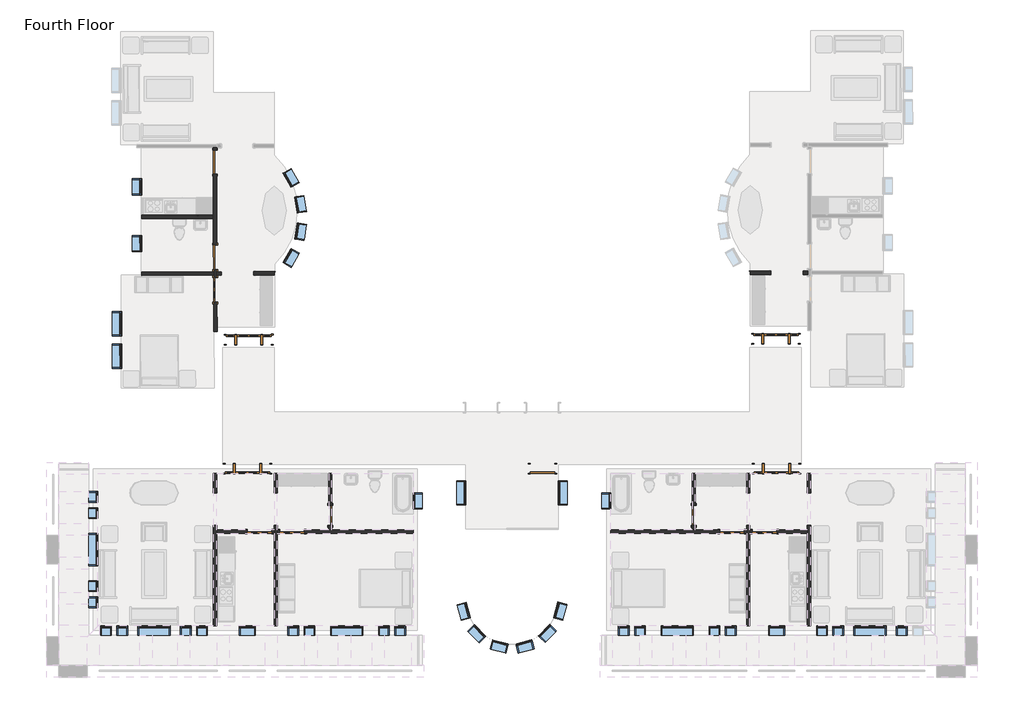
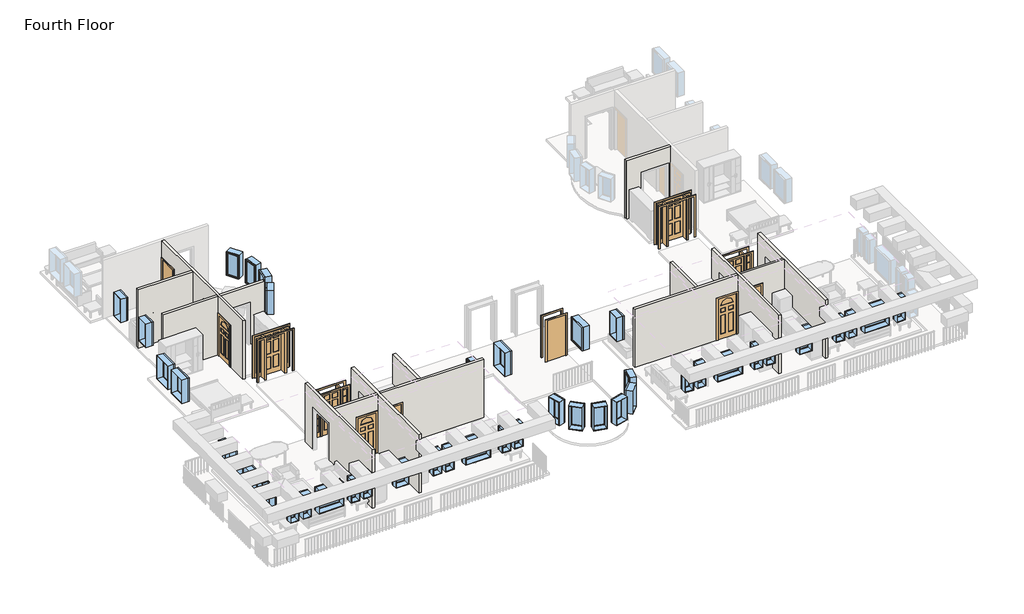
# One storey, part 1 of 6: 44 windows, 15 walls, 14 doors.
"""IFC4 building model written with IfcOpenShell, lengths in millimetres."""

from ifc_helpers import new_model, si_unit, frame, origin, place, context, project, spatial, polyline, circle_curve, outline, extrude, faceted_brep, transform, mapped, element, save
from ifc_brep_helpers import plane_surface, cylinder_surface, advanced_brep
from components import door_829da954, door_2e3b4da2, door_4d6c7550, door_e36758a9, door_cc5399a4, door_a1797ceb, door_a3eb833a, door_dba5aa2e, door_ffdb1193, window_da97879f, window_d61ef850, window_60baf983, window_ed80354a, window_0e2fc6ce, window_6eb97611, window_d89bf842

model = new_model("IFC4")

# Units and contexts
model_context = context("Model", 3, world=origin())
ifc_project = project(units=[si_unit("LENGTHUNIT", "METRE", prefix="MILLI")], contexts=[model_context])

# Site, building, storey
site = spatial("IfcSite", under=ifc_project)
building = spatial("IfcBuilding", under=site)
storey = spatial("IfcBuildingStorey", under=building, Name="Fourth Floor", Elevation=9144.0)

# Doors
placement = place(None, origin())
door_shape = door_829da954(model_context)
element("IfcDoor", 1, ObjectType="Single-Decorative 2 : 36\" x 84\"", at=placement, inside=storey, context=model_context, shape_type="MappedRepresentation", body=[
    mapped(door_shape, transform((-6669.0589563, -30331.8808133, 9144.0), x_axis=(1.0, 0.0, 0.0), y_axis=(0.0, 1.0, 0.0), z_axis=(0.0, 0.0, 1.0))),
])
element("IfcDoor", 2, ObjectType="Single-Decorative 2 : 36\" x 84\"", at=placement, inside=storey, context=model_context, shape_type="MappedRepresentation", body=[
    mapped(door_shape, transform((-24420.4839563, -30331.8808133, 9144.0), x_axis=(1.0, 0.0, 0.0), y_axis=(0.0, 1.0, 0.0), z_axis=(0.0, 0.0, 1.0))),
])
door_2_shape = door_2e3b4da2(model_context)
element("IfcDoor", 3, ObjectType="Single-Decorative 2 : 36\" x 84\"", at=placement, inside=storey, context=model_context, shape_type="MappedRepresentation", body=[
    mapped(door_2_shape, transform((-5449.8589563, -30331.8808133, 9144.0), x_axis=(-1.0, 0.0, 0.0), y_axis=(0.0, -1.0, 0.0), z_axis=(0.0, 0.0, 1.0))),
])
element("IfcDoor", 4, ObjectType="Single-Decorative 2 : 36\" x 84\"", at=placement, inside=storey, context=model_context, shape_type="MappedRepresentation", body=[
    mapped(door_2_shape, transform((-23201.2839563, -30331.8808133, 9144.0), x_axis=(-1.0, 0.0, 0.0), y_axis=(0.0, -1.0, 0.0), z_axis=(0.0, 0.0, 1.0))),
])
element("IfcDoor", 5, ObjectType="Single-Decorative 2 : 36\" x 84\"", at=placement, inside=storey, context=model_context, shape_type="MappedRepresentation", body=[
    mapped(door_2_shape, transform((-26083.9222963, -21236.9710395, 9144.0), x_axis=(-0.002276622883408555, 0.9999974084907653, 0.0), y_axis=(-0.9999974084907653, -0.002276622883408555, 0.0), z_axis=(0.0, 0.0, 1.0))),
])
door_3_shape = door_4d6c7550(model_context)
element("IfcDoor", 6, ObjectType="Single-Flush : 30\" x 84\"", at=placement, inside=storey, context=model_context, shape_type="MappedRepresentation", body=[
    mapped(door_3_shape, transform((-21764.5964563, -29722.2808133, 9144.0), x_axis=(0.0, -1.0, 0.0), y_axis=(1.0, 0.0, 0.0), z_axis=(0.0, 0.0, 1.0))),
])
door_4_shape = door_e36758a9(model_context)
element("IfcDoor", 7, ObjectType="Single-Flush : 30\" x 84\"", at=placement, inside=storey, context=model_context, shape_type="MappedRepresentation", body=[
    mapped(door_4_shape, transform((-8105.7464563, -29722.2808133, 9144.0), x_axis=(0.0, -1.0, 0.0), y_axis=(1.0, 0.0, 0.0), z_axis=(0.0, 0.0, 1.0))),
])
door_5_shape = door_cc5399a4(model_context)
element("IfcDoor", 8, ObjectType="Single-Flush : 36\" x 84\"", at=placement, inside=storey, context=model_context, shape_type="MappedRepresentation", body=[
    mapped(door_5_shape, transform((-13792.1714563, -27958.5683133, 9144.0), x_axis=(1.0, 0.0, 0.0), y_axis=(0.0, 1.0, 0.0), z_axis=(0.0, 0.0, 1.0))),
])
door_6_shape = door_a1797ceb(model_context)
element("IfcDoor", 9, ObjectType="Single-Flush : 36\" x 84\"", at=placement, inside=storey, context=model_context, shape_type="MappedRepresentation", body=[
    mapped(door_6_shape, transform((-26094.8442239, -16439.5584721, 9144.0), x_axis=(-0.002276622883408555, 0.9999974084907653, 0.0), y_axis=(-0.9999974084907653, -0.002276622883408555, 0.0), z_axis=(0.0, 0.0, 1.0))),
])
door_7_shape = door_a3eb833a(model_context)
element("IfcDoor", 10, ObjectType="Single-Flush : 36\" x 84\"", at=placement, inside=storey, context=model_context, shape_type="MappedRepresentation", body=[
    mapped(door_7_shape, transform((-26086.697955, -20017.7741991, 9144.0), x_axis=(0.002276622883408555, -0.9999974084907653, 0.0), y_axis=(0.9999974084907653, 0.002276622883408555, 0.0), z_axis=(0.0, 0.0, 1.0))),
])
door_8_shape = door_dba5aa2e(model_context)
element("IfcDoor", 11, ObjectType="Single-Raised Panel with Sidelights : 36\" x 84\"", at=placement, inside=storey, context=model_context, shape_type="MappedRepresentation", body=[
    mapped(door_8_shape, transform((-24877.6839563, -27958.5683133, 9144.0), x_axis=(1.0, 0.0, 0.0), y_axis=(0.0, 1.0, 0.0), z_axis=(0.0, 0.0, 1.0))),
])
element("IfcDoor", 12, ObjectType="Single-Raised Panel with Sidelights : 36\" x 84\"", at=placement, inside=storey, context=model_context, shape_type="MappedRepresentation", body=[
    mapped(door_8_shape, transform((-5011.6902332, -23083.5536869, 9144.0), x_axis=(-0.9999997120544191, -0.0007588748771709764, 0.0), y_axis=(0.0007588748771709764, -0.9999997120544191, 0.0), z_axis=(0.0, 0.0, 1.0))),
])
door_9_shape = door_ffdb1193(model_context)
element("IfcDoor", 13, ObjectType="Single-Raised Panel with Sidelights : 36\" x 84\"", at=placement, inside=storey, context=model_context, shape_type="MappedRepresentation", body=[
    mapped(door_9_shape, transform((-4992.6589563, -27958.5683133, 9144.0), x_axis=(-1.0, 0.0, 0.0), y_axis=(0.0, -1.0, 0.0), z_axis=(0.0, 0.0, 1.0))),
])
element("IfcDoor", 14, ObjectType="Single-Raised Panel with Sidelights : 36\" x 84\"", at=placement, inside=storey, context=model_context, shape_type="MappedRepresentation", body=[
    mapped(door_9_shape, transform((-24823.9341006, -23113.6237411, 9144.0), x_axis=(0.9999974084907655, 0.002276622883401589, 0.0), y_axis=(-0.002276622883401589, 0.9999974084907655, 0.0), z_axis=(0.0, 0.0, 1.0))),
])

# Walls
element("IfcWall", 15, ObjectType="Interior - 5\" Partition (2-hr)", at=placement, inside=storey, context=model_context, shape_type="Brep", body=[
    faceted_brep([(-3836.9589563, -33878.3558133, 9144.0), (-3836.9589563, -30395.3808133, 9144.0), (-3836.9589563, -30268.3808133, 9144.0), (-3836.9589563, -30092.1683133, 9144.0), (-3709.9589563, -30092.1683133, 9144.0), (-3709.9589563, -33878.3558133, 9144.0), (-3836.9589563, -28872.9683133, 9144.0), (-3836.9589563, -28134.7808133, 9144.0), (-3709.9589563, -28134.7808133, 9144.0), (-3709.9589563, -28872.9683133, 9144.0), (-3709.9589563, -33878.3558133, 12192.0), (-3709.9589563, -28134.7808133, 12192.0), (-3836.9589563, -28134.7808133, 12192.0), (-3836.9589563, -30268.3808133, 12192.0), (-3836.9589563, -30395.3808133, 12192.0), (-3836.9589563, -33878.3558133, 12192.0), (-3709.9589563, -30092.1683133, 11277.6), (-3709.9589563, -28872.9683133, 11277.6), (-3836.9589563, -30092.1683133, 11277.6), (-3836.9589563, -28872.9683133, 11277.6)], [[[0, 1, 2, 3, 4, 5]], [[6, 7, 8, 9]], [[10, 11, 12, 13, 14, 15]], [[5, 4, 16, 17, 9, 8, 11, 10]], [[18, 3, 2, 1, 0, 15, 14, 13, 12, 7, 6, 19]], [[5, 10, 15, 0]], [[11, 8, 7, 12]], [[9, 17, 19, 6]], [[16, 4, 3, 18]], [[17, 16, 18, 19]]]),
])
element("IfcWall", 16, ObjectType="Interior - 5\" Partition (2-hr)", at=placement, inside=storey, context=model_context, shape_type="Brep", body=[
    faceted_brep([(-5995.9589563, -28134.7808133, 9144.0), (-5995.9589563, -28872.9683133, 9144.0), (-6122.9589563, -28872.9683133, 9144.0), (-6122.9589563, -28134.7808133, 9144.0), (-5995.9589563, -30092.1683133, 9144.0), (-5995.9589563, -30268.3808133, 9144.0), (-5995.9589563, -30395.3808133, 9144.0), (-5995.9589563, -33878.3558133, 9144.0), (-6122.9589563, -33878.3558133, 9144.0), (-6122.9589563, -30395.3808133, 9144.0), (-6122.9589563, -30268.3808133, 9144.0), (-6122.9589563, -30092.1683133, 9144.0), (-5995.9589563, -33878.3558133, 12192.0), (-5995.9589563, -30395.3808133, 12192.0), (-5995.9589563, -30268.3808133, 12192.0), (-5995.9589563, -28134.7808133, 12192.0), (-6122.9589563, -28134.7808133, 12192.0), (-6122.9589563, -30268.3808133, 12192.0), (-6122.9589563, -30395.3808133, 12192.0), (-6122.9589563, -33878.3558133, 12192.0), (-5995.9589563, -28872.9683133, 11277.6), (-5995.9589563, -30092.1683133, 11277.6), (-6122.9589563, -28872.9683133, 11277.6), (-6122.9589563, -30092.1683133, 11277.6)], [[[0, 1, 2, 3]], [[4, 5, 6, 7, 8, 9, 10, 11]], [[12, 13, 14, 15, 16, 17, 18, 19]], [[20, 1, 0, 15, 14, 13, 12, 7, 6, 5, 4, 21]], [[3, 2, 22, 23, 11, 10, 9, 8, 19, 18, 17, 16]], [[7, 12, 19, 8]], [[15, 0, 3, 16]], [[11, 23, 21, 4]], [[22, 2, 1, 20]], [[23, 22, 20, 21]]]),
])
element("IfcWall", 17, ObjectType="Interior - 5\" Partition (2-hr)", at=placement, inside=storey, context=model_context, shape_type="Brep", body=[
    faceted_brep([(-6122.9589563, -30395.3808133, 9144.0), (-6211.8589563, -30395.3808133, 9144.0), (-6211.8589563, -30268.3808133, 9144.0), (-6122.9589563, -30268.3808133, 9144.0), (-7126.2589563, -30395.3808133, 9144.0), (-11217.2464563, -30395.3808133, 9144.0), (-11217.2464563, -30268.3808133, 9144.0), (-8169.2464563, -30268.3808133, 9144.0), (-8042.2464563, -30268.3808133, 9144.0), (-7126.2589563, -30268.3808133, 9144.0), (-11217.2464563, -30395.3808133, 12192.0), (-6122.9589563, -30395.3808133, 12192.0), (-6122.9589563, -30268.3808133, 12192.0), (-8042.2464563, -30268.3808133, 12192.0), (-8169.2464563, -30268.3808133, 12192.0), (-11217.2464563, -30268.3808133, 12192.0), (-6211.8589563, -30395.3808133, 11277.6), (-7126.2589563, -30395.3808133, 11277.6), (-6211.8589563, -30268.3808133, 11277.6), (-7126.2589563, -30268.3808133, 11277.6)], [[[0, 1, 2, 3]], [[4, 5, 6, 7, 8, 9]], [[10, 11, 12, 13, 14, 15]], [[16, 1, 0, 11, 10, 5, 4, 17]], [[3, 2, 18, 19, 9, 8, 7, 6, 15, 14, 13, 12]], [[11, 0, 3, 12]], [[5, 10, 15, 6]], [[18, 2, 1, 16]], [[19, 18, 16, 17]], [[9, 19, 17, 4]]]),
])
element("IfcWall", 18, ObjectType="Interior - 5\" Partition (2-hr)", at=placement, inside=storey, context=model_context, shape_type="SweptSolid", body=[
    extrude(outline(polyline([(-30103.2808133, 11277.6), (-30103.2808133, 9144.0), (-30268.3808133, 9144.0), (-30268.3808133, 12192.0), (-28134.7808133, 12192.0), (-28134.7808133, 9144.0), (-29341.2808133, 9144.0), (-29341.2808133, 11277.6), (-30103.2808133, 11277.6)])), frame((-8169.2464563, 0.0, 0.0), z_axis=(1.0, 0.0, 0.0), x_axis=(0.0, 1.0, 0.0)), (0.0, 0.0, 1.0), 127.0),
])
element("IfcWall", 19, ObjectType="Interior - 5\" Partition (2-hr)", at=placement, inside=storey, context=model_context, shape_type="SweptSolid", body=[
    extrude(outline(polyline([(9144.0, -5995.9589563), (9144.0, -5907.0589563), (11277.6, -5907.0589563), (11277.6, -4992.6589563), (9144.0, -4992.6589563), (9144.0, -3836.9589563), (12192.0, -3836.9589563), (12192.0, -5995.9589563), (9144.0, -5995.9589563)])), frame((0.0, -30395.3808133, 0.0), z_axis=(0.0, 1.0, 0.0), x_axis=(0.0, 0.0, 1.0)), (0.0, 0.0, 1.0), 127.0),
])
element("IfcWall", 20, ObjectType="Interior - 5\" Partition (2-hr)", at=placement, inside=storey, context=model_context, shape_type="Brep", body=[
    faceted_brep([(-26160.3839563, -33878.3558133, 9144.0), (-26160.3839563, -30092.1683133, 9144.0), (-26033.3839563, -30092.1683133, 9144.0), (-26033.3839563, -30268.3808133, 9144.0), (-26033.3839563, -30395.3808133, 9144.0), (-26033.3839563, -33878.3558133, 9144.0), (-26160.3839563, -28872.9683133, 9144.0), (-26160.3839563, -28134.7808133, 9144.0), (-26033.3839563, -28134.7808133, 9144.0), (-26033.3839563, -28872.9683133, 9144.0), (-26033.3839563, -33878.3558133, 12192.0), (-26033.3839563, -30395.3808133, 12192.0), (-26033.3839563, -30268.3808133, 12192.0), (-26033.3839563, -28134.7808133, 12192.0), (-26160.3839563, -28134.7808133, 12192.0), (-26160.3839563, -33878.3558133, 12192.0), (-26033.3839563, -30092.1683133, 11277.6), (-26033.3839563, -28872.9683133, 11277.6), (-26160.3839563, -30092.1683133, 11277.6), (-26160.3839563, -28872.9683133, 11277.6)], [[[0, 1, 2, 3, 4, 5]], [[6, 7, 8, 9]], [[10, 11, 12, 13, 14, 15]], [[5, 4, 3, 2, 16, 17, 9, 8, 13, 12, 11, 10]], [[18, 1, 0, 15, 14, 7, 6, 19]], [[5, 10, 15, 0]], [[13, 8, 7, 14]], [[9, 17, 19, 6]], [[16, 2, 1, 18]], [[17, 16, 18, 19]]]),
])
element("IfcWall", 21, ObjectType="Interior - 5\" Partition (2-hr)", at=placement, inside=storey, context=model_context, shape_type="Brep", body=[
    faceted_brep([(-23747.3839563, -28134.7808133, 9144.0), (-23747.3839563, -28872.9683133, 9144.0), (-23874.3839563, -28872.9683133, 9144.0), (-23874.3839563, -28134.7808133, 9144.0), (-23747.3839563, -30092.1683133, 9144.0), (-23747.3839563, -30268.3808133, 9144.0), (-23747.3839563, -30395.3808133, 9144.0), (-23747.3839563, -33878.3558133, 9144.0), (-23874.3839563, -33878.3558133, 9144.0), (-23874.3839563, -30395.3808133, 9144.0), (-23874.3839563, -30268.3808133, 9144.0), (-23874.3839563, -30092.1683133, 9144.0), (-23747.3839563, -33878.3558133, 12192.0), (-23747.3839563, -30395.3808133, 12192.0), (-23747.3839563, -30268.3808133, 12192.0), (-23747.3839563, -28134.7808133, 12192.0), (-23874.3839563, -28134.7808133, 12192.0), (-23874.3839563, -30268.3808133, 12192.0), (-23874.3839563, -30395.3808133, 12192.0), (-23874.3839563, -33878.3558133, 12192.0), (-23747.3839563, -28872.9683133, 11277.6), (-23747.3839563, -30092.1683133, 11277.6), (-23874.3839563, -28872.9683133, 11277.6), (-23874.3839563, -30092.1683133, 11277.6)], [[[0, 1, 2, 3]], [[4, 5, 6, 7, 8, 9, 10, 11]], [[12, 13, 14, 15, 16, 17, 18, 19]], [[20, 1, 0, 15, 14, 13, 12, 7, 6, 5, 4, 21]], [[3, 2, 22, 23, 11, 10, 9, 8, 19, 18, 17, 16]], [[7, 12, 19, 8]], [[15, 0, 3, 16]], [[11, 23, 21, 4]], [[22, 2, 1, 20]], [[23, 22, 20, 21]]]),
])
element("IfcWall", 22, ObjectType="Interior - 5\" Partition (2-hr)", at=placement, inside=storey, context=model_context, shape_type="Brep", body=[
    faceted_brep([(-23747.3839563, -30268.3808133, 9144.0), (-23658.4839563, -30268.3808133, 9144.0), (-23658.4839563, -30395.3808133, 9144.0), (-23747.3839563, -30395.3808133, 9144.0), (-22744.0839563, -30268.3808133, 9144.0), (-21828.0964563, -30268.3808133, 9144.0), (-21701.0964563, -30268.3808133, 9144.0), (-18653.0964563, -30268.3808133, 9144.0), (-18653.0964563, -30395.3808133, 9144.0), (-22744.0839563, -30395.3808133, 9144.0), (-18653.0964563, -30268.3808133, 12192.0), (-21701.0964563, -30268.3808133, 12192.0), (-21828.0964563, -30268.3808133, 12192.0), (-23747.3839563, -30268.3808133, 12192.0), (-23747.3839563, -30395.3808133, 12192.0), (-18653.0964563, -30395.3808133, 12192.0), (-23658.4839563, -30268.3808133, 11277.6), (-22744.0839563, -30268.3808133, 11277.6), (-23658.4839563, -30395.3808133, 11277.6), (-22744.0839563, -30395.3808133, 11277.6)], [[[0, 1, 2, 3]], [[4, 5, 6, 7, 8, 9]], [[10, 11, 12, 13, 14, 15]], [[16, 1, 0, 13, 12, 11, 10, 7, 6, 5, 4, 17]], [[3, 2, 18, 19, 9, 8, 15, 14]], [[13, 0, 3, 14]], [[7, 10, 15, 8]], [[18, 2, 1, 16]], [[19, 18, 16, 17]], [[9, 19, 17, 4]]]),
])
element("IfcWall", 23, ObjectType="Interior - 5\" Partition (2-hr)", at=placement, inside=storey, context=model_context, shape_type="SweptSolid", body=[
    extrude(outline(polyline([(-30103.2808133, 11277.6), (-30103.2808133, 9144.0), (-30268.3808133, 9144.0), (-30268.3808133, 12192.0), (-28134.7808133, 12192.0), (-28134.7808133, 9144.0), (-29341.2808133, 9144.0), (-29341.2808133, 11277.6), (-30103.2808133, 11277.6)])), frame((-21828.0964563, 0.0, 0.0), z_axis=(1.0, 0.0, 0.0), x_axis=(0.0, 1.0, 0.0)), (0.0, 0.0, 1.0), 127.0),
])
element("IfcWall", 24, ObjectType="Interior - 5\" Partition (2-hr)", at=placement, inside=storey, context=model_context, shape_type="SweptSolid", body=[
    extrude(outline(polyline([(11277.6, -23963.2839563), (9144.0, -23963.2839563), (9144.0, -23874.3839563), (12192.0, -23874.3839563), (12192.0, -26033.3839563), (9144.0, -26033.3839563), (9144.0, -24877.6839563), (11277.6, -24877.6839563), (11277.6, -23963.2839563)])), frame((0.0, -30395.3808133, 0.0), z_axis=(0.0, 1.0, 0.0), x_axis=(0.0, 0.0, 1.0)), (0.0, 0.0, 1.0), 127.0),
])
element("IfcWall", 25, ObjectType="Interior - 5\" Partition (2-hr)", at=placement, inside=storey, context=model_context, shape_type="AdvancedBrep", body=[
    advanced_brep(
    [(-6021.7945834, -20531.7031387, 9144.0), (-5205.7147944, -20531.0838361, 9144.0), (-5205.6184172, -20658.0837995, 9144.0), (-5980.3181942, -20658.6716999, 9144.0), (-5980.3834569, -20572.6724285, 9144.0), (-3986.5151454, -20530.1586159, 9144.0), (-3821.415193, -20530.0333256, 9144.0), (-3821.3188158, -20657.033289, 9144.0), (-3986.4187683, -20657.1585793, 9144.0), (-3821.415193, -20530.0333256, 12192.0), (-6021.7945834, -20531.7031387, 12192.0), (-5980.3834569, -20572.6724285, 12192.0), (-5980.3181942, -20658.6716999, 12192.0), (-3821.3188158, -20657.033289, 12192.0), (-5205.7147944, -20531.0838361, 11277.6), (-3986.5151454, -20530.1586159, 11277.6), (-5205.6184172, -20658.0837995, 11277.6), (-3986.4187683, -20657.1585793, 11277.6)],
    [
        (0, 1),
        (1, 2),
        (2, 3),
        (3, 4),
        (4, 0, circle_curve(frame((-3981.4527218, -18510.7705488, 9144.0), z_axis=(0.0, 0.0, -1.0), x_axis=(-0.6994578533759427, -0.714673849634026, 0.0)), 2871.7875)),
        (5, 6),
        (6, 7),
        (7, 8),
        (8, 5),
        (9, 10),
        (10, 11, circle_curve(frame((-3981.4527218, -18510.7705488, 12192.0), z_axis=(0.0, 0.0, 1.0), x_axis=(-0.6994578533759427, -0.714673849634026, 0.0)), 2871.7875)),
        (11, 12),
        (12, 13),
        (13, 9),
        (14, 1),
        (0, 10),
        (9, 6),
        (5, 15),
        (15, 14),
        (2, 16),
        (16, 17),
        (17, 8),
        (7, 13),
        (12, 3),
        (4, 11),
        (17, 15),
        (14, 16),
    ],
    [
        plane_surface(frame((-3757.9152112, -20529.9851371, 9144.0), z_axis=(0.0, 0.0, -1.0000000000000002), x_axis=(0.0007588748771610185, -0.9999997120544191, 0.0))),
        plane_surface(frame((-6205.2060584, -20531.8423251, 12192.0), z_axis=(0.0, 0.0, 1.0000000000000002), x_axis=(0.000758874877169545, -0.9999997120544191, 0.0))),
        plane_surface(frame((-3757.9152112, -20529.9851371, 9144.0), z_axis=(-0.0007588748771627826, 0.9999997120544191, 0.0), x_axis=(-0.9999997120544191, -0.0007588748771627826, 0.0))),
        plane_surface(frame((-3757.8188341, -20656.9851005, 9144.0), z_axis=(0.0007588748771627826, -0.9999997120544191, 0.0), x_axis=(0.9999997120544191, 0.0007588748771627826, 0.0))),
        plane_surface(frame((-3819.8514744, -22590.6077323, 9144.0), z_axis=(0.999999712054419, 0.0007588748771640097, 0.0), x_axis=(0.0007588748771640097, -0.999999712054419, 0.0))),
        cylinder_surface(frame((-3981.4527218, -18510.7705488, 8991.6), z_axis=(0.0, 0.0, 1.0), x_axis=(-0.6994578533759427, -0.714673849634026, 0.0)), 2871.7875),
        plane_surface(frame((-5979.4304559, -21828.4798931, 8991.6), z_axis=(-0.999999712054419, -0.0007588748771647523, 0.0), x_axis=(0.0007588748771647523, -0.999999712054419, 0.0))),
        plane_surface(frame((-3986.4187683, -20657.1585793, 11277.6), z_axis=(-0.9999997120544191, -0.0007588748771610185, 0.0), x_axis=(-0.0007588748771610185, 0.9999997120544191, 0.0))),
        plane_surface(frame((-5205.6184172, -20658.0837995, 9144.0), z_axis=(0.9999997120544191, 0.0007588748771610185, 0.0), x_axis=(-0.0007588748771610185, 0.9999997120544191, 0.0))),
        plane_surface(frame((-5205.6184172, -20658.0837995, 11277.6), z_axis=(0.0, 0.0, -1.0000000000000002), x_axis=(-0.0007588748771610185, 0.9999997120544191, 0.0))),
    ],
    [
        (0, [[1, 2, 3, 4, 5]]),
        (0, [[6, 7, 8, 9]]),
        (1, [[10, 11, 12, 13, 14]]),
        (2, [[15, -1, 16, -10, 17, -6, 18, 19]]),
        (3, [[-3, 20, 21, 22, -8, 23, -13, 24]]),
        (4, [[-17, -14, -23, -7]]),
        (5, [[-16, -5, 25, -11]]),
        (6, [[-4, -24, -12, -25]]),
        (7, [[-22, 26, -18, -9]]),
        (8, [[-20, -2, -15, 27]]),
        (9, [[-21, -27, -19, -26]]),
    ],
),
])
element("IfcWall", 26, ObjectType="Interior - 5\" Partition (2-hr)", at=placement, inside=storey, context=model_context, shape_type="Brep", body=[
    faceted_brep([(-26016.8625342, -22800.5099217, 9144.0), (-26016.8625342, -22800.5099217, 12192.0), (-26143.862205, -22800.7990528, 12192.0), (-26143.862205, -22800.7990528, 9144.0), (-26032.5876522, -15893.3153218, 9144.0), (-26032.3852604, -15982.2150914, 9144.0), (-26159.3849313, -15982.5042225, 9144.0), (-26159.5873231, -15893.6044529, 9144.0), (-26022.1572475, -20474.8284487, 9144.0), (-26021.9548558, -20563.7282183, 9144.0), (-26021.6657247, -20690.7278892, 9144.0), (-26021.4633329, -20779.6276588, 9144.0), (-26148.4630038, -20779.9167899, 9144.0), (-26148.6653955, -20691.0170203, 9144.0), (-26148.9545266, -20564.0173494, 9144.0), (-26149.1569184, -20475.1175798, 9144.0), (-26151.2386624, -19560.7199495, 9144.0), (-26153.5227981, -18557.4225496, 9144.0), (-26153.8119292, -18430.4228787, 9144.0), (-26157.3031873, -16896.9018528, 9144.0), (-26030.3035165, -16896.6127217, 9144.0), (-26024.2389915, -19560.4308184, 9144.0), (-26019.3815889, -21694.0252892, 9144.0), (-26146.3812598, -21694.3144203, 9144.0), (-26021.6657247, -20690.7278892, 12192.0), (-26021.9548558, -20563.7282183, 12192.0), (-26032.5876522, -15893.3153218, 12192.0), (-26159.5873231, -15893.6044529, 12192.0), (-26153.8119292, -18430.4228787, 12192.0), (-26153.5227981, -18557.4225496, 12192.0), (-26148.9545266, -20564.0173494, 12192.0), (-26148.6653955, -20691.0170203, 12192.0), (-26021.4633329, -20779.6276588, 11277.6), (-26022.1572475, -20474.8284487, 11277.6), (-26024.2389915, -19560.4308184, 11277.6), (-26030.3035165, -16896.6127217, 11277.6), (-26032.3852604, -15982.2150914, 11277.6), (-26019.3815889, -21694.0252892, 11277.6), (-26148.4630038, -20779.9167899, 11277.6), (-26146.3812598, -21694.3144203, 11277.6), (-26159.3849313, -15982.5042225, 11277.6), (-26157.3031873, -16896.9018528, 11277.6), (-26151.2386624, -19560.7199495, 11277.6), (-26149.1569184, -20475.1175798, 11277.6)], [[[0, 1, 2, 3]], [[4, 5, 6, 7]], [[8, 9, 10, 11, 12, 13, 14, 15]], [[16, 17, 18, 19, 20, 21]], [[22, 0, 3, 23]], [[1, 24, 25, 26, 27, 28, 29, 30, 31, 2]], [[32, 11, 10, 9, 8, 33, 34, 21, 20, 35, 36, 5, 4, 26, 25, 24, 1, 0, 22, 37]], [[15, 14, 13, 12, 38, 39, 23, 3, 2, 31, 30, 29, 28, 27, 7, 6, 40, 41, 19, 18, 17, 16, 42, 43]], [[26, 4, 7, 27]], [[40, 6, 5, 36]], [[41, 40, 36, 35]], [[19, 41, 35, 20]], [[33, 8, 15, 43]], [[34, 33, 43, 42]], [[21, 34, 42, 16]], [[38, 12, 11, 32]], [[39, 38, 32, 37]], [[23, 39, 37, 22]]]),
])
element("IfcWall", 27, ObjectType="Interior - 5\" Partition (2-hr)", at=placement, inside=storey, context=model_context, shape_type="SweptSolid", body=[
    extrude(outline(polyline([(-26148.6653955, -20691.0170203), (-28844.2334099, -20697.153828), (-28844.522541, -20570.1541572), (-26148.9545266, -20564.0173494), (-26148.6653955, -20691.0170203)])), frame((0.0, 0.0, 9144.0), z_axis=(0.0, 0.0, 1.0), x_axis=(1.0, 0.0, 0.0)), (0.0, 0.0, 1.0), 3048.0),
])
element("IfcWall", 28, ObjectType="Interior - 5\" Partition (2-hr)", at=placement, inside=storey, context=model_context, shape_type="SweptSolid", body=[
    extrude(outline(polyline([(-28849.3799436, -18436.5596864), (-26153.8119292, -18430.4228787), (-26153.5227981, -18557.4225496), (-28849.0908125, -18563.5593573), (-28849.3799436, -18436.5596864)])), frame((0.0, 0.0, 9144.0), z_axis=(0.0, 0.0, 1.0), x_axis=(1.0, 0.0, 0.0)), (0.0, 0.0, 1.0), 3048.0),
])
element("IfcWall", 29, ObjectType="Interior - 5\" Partition (2-hr)", at=placement, inside=storey, context=model_context, shape_type="AdvancedBrep", body=[
    advanced_brep(
    [(-23862.6713197, -20685.8126604, 9144.0), (-24637.3693121, -20687.5763602, 9144.0), (-24637.6584432, -20560.5766893, 9144.0), (-23821.5805341, -20558.7187828, 9144.0), (-23862.8671077, -20599.8135871, 9144.0), (-25856.5661525, -20690.3520188, 9144.0), (-26021.6657247, -20690.7278892, 9144.0), (-26021.9548558, -20563.7282183, 9144.0), (-25856.8552836, -20563.3523479, 9144.0), (-26021.6657247, -20690.7278892, 12192.0), (-23862.6713197, -20685.8126604, 12192.0), (-23862.8671077, -20599.8135871, 12192.0), (-23821.5805341, -20558.7187828, 12192.0), (-26021.9548558, -20563.7282183, 12192.0), (-24637.3693121, -20687.5763602, 11277.6), (-25856.5661525, -20690.3520188, 11277.6), (-24637.6584432, -20560.5766893, 11277.6), (-25856.8552836, -20563.3523479, 11277.6)],
    [
        (0, 1),
        (1, 2),
        (2, 3),
        (3, 4, circle_curve(frame((-25868.0475266, -18543.9889514, 9144.0), z_axis=(0.0, 0.0, -1.0), x_axis=(0.7158693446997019, 0.6982342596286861, 0.0)), 2871.7875)),
        (4, 0),
        (5, 6),
        (6, 7),
        (7, 8),
        (8, 5),
        (9, 10),
        (10, 11),
        (11, 12, circle_curve(frame((-25868.0475266, -18543.9889514, 12192.0), z_axis=(0.0, 0.0, 1.0), x_axis=(0.7158693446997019, 0.6982342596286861, 0.0)), 2871.7875)),
        (12, 13),
        (13, 9),
        (14, 1),
        (0, 10),
        (9, 6),
        (5, 15),
        (15, 14),
        (2, 16),
        (16, 17),
        (17, 8),
        (7, 13),
        (12, 3),
        (4, 11),
        (17, 15),
        (14, 16),
    ],
    [
        plane_surface(frame((-26085.1655601, -20690.8724548, 9144.0), z_axis=(0.0, 0.0, -1.0000000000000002), x_axis=(-0.002276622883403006, 0.9999974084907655, 0.0))),
        plane_surface(frame((-23637.8803504, -20685.3008948, 12192.0), z_axis=(0.0, 0.0, 1.0000000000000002), x_axis=(-0.002276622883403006, 0.9999974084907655, 0.0))),
        plane_surface(frame((-26085.1655601, -20690.8724548, 9144.0), z_axis=(0.0022766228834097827, -0.9999974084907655, 0.0), x_axis=(0.9999974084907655, 0.0022766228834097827, 0.0))),
        plane_surface(frame((-26085.4546912, -20563.8727839, 9144.0), z_axis=(-0.0022766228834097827, 0.9999974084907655, 0.0), x_axis=(-0.9999974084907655, -0.0022766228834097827, 0.0))),
        plane_surface(frame((-26017.2637036, -22624.2978783, 9144.0), z_axis=(-0.9999974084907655, -0.002276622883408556, 0.0), x_axis=(-0.002276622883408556, 0.9999974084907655, 0.0))),
        plane_surface(frame((-23860.0081069, -21855.6181588, 8991.6), z_axis=(0.9999974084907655, 0.002276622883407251, 0.0), x_axis=(-0.002276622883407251, 0.9999974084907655, 0.0))),
        cylinder_surface(frame((-25868.0475266, -18543.9889514, 8991.6), z_axis=(0.0, 0.0, 1.0), x_axis=(0.7158693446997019, 0.6982342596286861, 0.0)), 2871.7875),
        plane_surface(frame((-25856.8552836, -20563.3523479, 11277.6), z_axis=(0.9999974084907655, 0.002276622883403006, 0.0), x_axis=(0.002276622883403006, -0.9999974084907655, 0.0))),
        plane_surface(frame((-24637.6584432, -20560.5766893, 9144.0), z_axis=(-0.9999974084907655, -0.002276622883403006, 0.0), x_axis=(0.002276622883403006, -0.9999974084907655, 0.0))),
        plane_surface(frame((-24637.6584432, -20560.5766893, 11277.6), z_axis=(0.0, 0.0, -1.0000000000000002), x_axis=(0.002276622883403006, -0.9999974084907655, 0.0))),
    ],
    [
        (0, [[1, 2, 3, 4, 5]]),
        (0, [[6, 7, 8, 9]]),
        (1, [[10, 11, 12, 13, 14]]),
        (2, [[15, -1, 16, -10, 17, -6, 18, 19]]),
        (3, [[-3, 20, 21, 22, -8, 23, -13, 24]]),
        (4, [[-17, -14, -23, -7]]),
        (5, [[-16, -5, 25, -11]]),
        (6, [[-4, -24, -12, -25]]),
        (7, [[-22, 26, -18, -9]]),
        (8, [[-20, -2, -15, 27]]),
        (9, [[-21, -27, -19, -26]]),
    ],
),
])

# Windows
window_shape = window_da97879f(model_context)
element("IfcWindow", 30, ObjectType="Fixed : 16\" x 48\"", at=placement, inside=storey, context=model_context, shape_type="MappedRepresentation", body=[
    mapped(window_shape, transform((-6681.7589563, -34054.5683133, 9144.0), x_axis=(1.0, 0.0, 0.0), y_axis=(0.0, 1.0, 0.0), z_axis=(0.0, 0.0, 1.0))),
])
element("IfcWindow", 31, ObjectType="Fixed : 16\" x 48\"", at=placement, inside=storey, context=model_context, shape_type="MappedRepresentation", body=[
    mapped(window_shape, transform((-7291.3589563, -34054.5683133, 9144.0), x_axis=(1.0, 0.0, 0.0), y_axis=(0.0, 1.0, 0.0), z_axis=(0.0, 0.0, 1.0))),
])
element("IfcWindow", 32, ObjectType="Fixed : 16\" x 48\"", at=placement, inside=storey, context=model_context, shape_type="MappedRepresentation", body=[
    mapped(window_shape, transform((-255.5589563, -34054.5683133, 9144.0), x_axis=(1.0, 0.0, 0.0), y_axis=(0.0, 1.0, 0.0), z_axis=(0.0, 0.0, 1.0))),
])
element("IfcWindow", 33, ObjectType="Fixed : 16\" x 48\"", at=placement, inside=storey, context=model_context, shape_type="MappedRepresentation", body=[
    mapped(window_shape, transform((-19099.1839563, -34054.5683133, 9144.0), x_axis=(1.0, 0.0, 0.0), y_axis=(0.0, 1.0, 0.0), z_axis=(0.0, 0.0, 1.0))),
])
element("IfcWindow", 34, ObjectType="Fixed : 16\" x 48\"", at=placement, inside=storey, context=model_context, shape_type="MappedRepresentation", body=[
    mapped(window_shape, transform((-19708.7839563, -34054.5683133, 9144.0), x_axis=(1.0, 0.0, 0.0), y_axis=(0.0, 1.0, 0.0), z_axis=(0.0, 0.0, 1.0))),
])
element("IfcWindow", 35, ObjectType="Fixed : 16\" x 48\"", at=placement, inside=storey, context=model_context, shape_type="MappedRepresentation", body=[
    mapped(window_shape, transform((-26541.3839563, -34054.5683133, 9144.0), x_axis=(1.0, 0.0, 0.0), y_axis=(0.0, 1.0, 0.0), z_axis=(0.0, 0.0, 1.0))),
])
element("IfcWindow", 36, ObjectType="Fixed : 16\" x 48\"", at=placement, inside=storey, context=model_context, shape_type="MappedRepresentation", body=[
    mapped(window_shape, transform((-27150.9839563, -34054.5683133, 9144.0), x_axis=(1.0, 0.0, 0.0), y_axis=(0.0, 1.0, 0.0), z_axis=(0.0, 0.0, 1.0))),
])
element("IfcWindow", 37, ObjectType="Fixed : 16\" x 48\"", at=placement, inside=storey, context=model_context, shape_type="MappedRepresentation", body=[
    mapped(window_shape, transform((-30668.8839563, -33025.8683133, 9144.0), x_axis=(0.0, -1.0, 0.0), y_axis=(1.0, 0.0, 0.0), z_axis=(0.0, 0.0, 1.0))),
])
element("IfcWindow", 38, ObjectType="Fixed : 16\" x 48\"", at=placement, inside=storey, context=model_context, shape_type="MappedRepresentation", body=[
    mapped(window_shape, transform((-30668.8839563, -32416.2683133, 9144.0), x_axis=(0.0, -1.0, 0.0), y_axis=(1.0, 0.0, 0.0), z_axis=(0.0, 0.0, 1.0))),
])
window_2_shape = window_d61ef850(model_context)
element("IfcWindow", 39, ObjectType="Fixed : 16\" x 48\"", at=placement, inside=storey, context=model_context, shape_type="MappedRepresentation", body=[
    mapped(window_2_shape, transform((-10771.1589563, -34054.5683133, 9144.0), x_axis=(-1.0, 0.0, 0.0), y_axis=(0.0, -1.0, 0.0), z_axis=(0.0, 0.0, 1.0))),
])
element("IfcWindow", 40, ObjectType="Fixed : 16\" x 48\"", at=placement, inside=storey, context=model_context, shape_type="MappedRepresentation", body=[
    mapped(window_2_shape, transform((-10161.5589563, -34054.5683133, 9144.0), x_axis=(-1.0, 0.0, 0.0), y_axis=(0.0, -1.0, 0.0), z_axis=(0.0, 0.0, 1.0))),
])
element("IfcWindow", 41, ObjectType="Fixed : 16\" x 48\"", at=placement, inside=storey, context=model_context, shape_type="MappedRepresentation", body=[
    mapped(window_2_shape, transform((-3328.9589563, -34054.5683133, 9144.0), x_axis=(-1.0, 0.0, 0.0), y_axis=(0.0, -1.0, 0.0), z_axis=(0.0, 0.0, 1.0))),
])
element("IfcWindow", 42, ObjectType="Fixed : 16\" x 48\"", at=placement, inside=storey, context=model_context, shape_type="MappedRepresentation", body=[
    mapped(window_2_shape, transform((-2719.3589563, -34054.5683133, 9144.0), x_axis=(-1.0, 0.0, 0.0), y_axis=(0.0, -1.0, 0.0), z_axis=(0.0, 0.0, 1.0))),
])
element("IfcWindow", 43, ObjectType="Fixed : 16\" x 48\"", at=placement, inside=storey, context=model_context, shape_type="MappedRepresentation", body=[
    mapped(window_2_shape, transform((-23188.5839563, -34054.5683133, 9144.0), x_axis=(-1.0, 0.0, 0.0), y_axis=(0.0, -1.0, 0.0), z_axis=(0.0, 0.0, 1.0))),
])
element("IfcWindow", 44, ObjectType="Fixed : 16\" x 48\"", at=placement, inside=storey, context=model_context, shape_type="MappedRepresentation", body=[
    mapped(window_2_shape, transform((-22578.9839563, -34054.5683133, 9144.0), x_axis=(-1.0, 0.0, 0.0), y_axis=(0.0, -1.0, 0.0), z_axis=(0.0, 0.0, 1.0))),
])
element("IfcWindow", 45, ObjectType="Fixed : 16\" x 48\"", at=placement, inside=storey, context=model_context, shape_type="MappedRepresentation", body=[
    mapped(window_2_shape, transform((-30224.3839563, -34054.5683133, 9144.0), x_axis=(-1.0, 0.0, 0.0), y_axis=(0.0, -1.0, 0.0), z_axis=(0.0, 0.0, 1.0))),
])
element("IfcWindow", 46, ObjectType="Fixed : 16\" x 48\"", at=placement, inside=storey, context=model_context, shape_type="MappedRepresentation", body=[
    mapped(window_2_shape, transform((-29614.7839563, -34054.5683133, 9144.0), x_axis=(-1.0, 0.0, 0.0), y_axis=(0.0, -1.0, 0.0), z_axis=(0.0, 0.0, 1.0))),
])
element("IfcWindow", 47, ObjectType="Fixed : 16\" x 48\"", at=placement, inside=storey, context=model_context, shape_type="MappedRepresentation", body=[
    mapped(window_2_shape, transform((-30668.8839563, -28987.2683133, 9144.0), x_axis=(0.0, 1.0, 0.0), y_axis=(-1.0, 0.0, 0.0), z_axis=(0.0, 0.0, 1.0))),
])
element("IfcWindow", 48, ObjectType="Fixed : 16\" x 48\"", at=placement, inside=storey, context=model_context, shape_type="MappedRepresentation", body=[
    mapped(window_2_shape, transform((-30668.8839563, -29596.8683133, 9144.0), x_axis=(0.0, 1.0, 0.0), y_axis=(-1.0, 0.0, 0.0), z_axis=(0.0, 0.0, 1.0))),
])
window_3_shape = window_60baf983(model_context)
element("IfcWindow", 49, ObjectType="Fixed : 24\" x 48\"", at=placement, inside=storey, context=model_context, shape_type="MappedRepresentation", body=[
    mapped(window_3_shape, transform((-24839.5839563, -34054.5683133, 9144.0), x_axis=(1.0, 0.0, 0.0), y_axis=(0.0, 1.0, 0.0), z_axis=(0.0, 0.0, 1.0))),
])
element("IfcWindow", 50, ObjectType="Fixed : 24\" x 48\"", at=placement, inside=storey, context=model_context, shape_type="MappedRepresentation", body=[
    mapped(window_3_shape, transform((-18476.8839563, -29139.6683133, 9144.0), x_axis=(0.0, 1.0, 0.0), y_axis=(-1.0, 0.0, 0.0), z_axis=(0.0, 0.0, 1.0))),
])
element("IfcWindow", 51, ObjectType="Fixed : 24\" x 48\"", at=placement, inside=storey, context=model_context, shape_type="MappedRepresentation", body=[
    mapped(window_3_shape, transform((-23212.0202277, -20010.0927579, 9144.0), x_axis=(0.4942132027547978, 0.8693407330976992, 0.0), y_axis=(-0.8693407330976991, 0.49421320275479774, 0.0), z_axis=(0.0, 0.0, 0.9999999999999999))),
])
element("IfcWindow", 52, ObjectType="Fixed : 24\" x 48\"", at=placement, inside=storey, context=model_context, shape_type="MappedRepresentation", body=[
    mapped(window_3_shape, transform((-22870.9575118, -19014.5129434, 9144.0), x_axis=(0.1674882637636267, 0.9858740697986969, 0.0), y_axis=(-0.9858740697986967, 0.16748826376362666, 0.0), z_axis=(0.0, 0.0, 0.9999999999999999))),
])
window_4_shape = window_ed80354a(model_context)
element("IfcWindow", 53, ObjectType="Fixed : 24\" x 48\"", at=placement, inside=storey, context=model_context, shape_type="MappedRepresentation", body=[
    mapped(window_4_shape, transform((-5030.7589563, -34054.5683133, 9144.0), x_axis=(-1.0, 0.0, 0.0), y_axis=(0.0, -1.0, 0.0), z_axis=(0.0, 0.0, 1.0))),
])
element("IfcWindow", 54, ObjectType="Fixed : 24\" x 48\"", at=placement, inside=storey, context=model_context, shape_type="MappedRepresentation", body=[
    mapped(window_4_shape, transform((-11393.4589563, -29139.6683133, 9144.0), x_axis=(0.0, 1.0, 0.0), y_axis=(-1.0, 0.0, 0.0), z_axis=(0.0, 0.0, 1.0))),
])
element("IfcWindow", 55, ObjectType="Fixed : 24\" x 48\"", at=placement, inside=storey, context=model_context, shape_type="MappedRepresentation", body=[
    mapped(window_4_shape, transform((-16757.5848795, -33290.1635131, 9144.0), x_axis=(-0.26176149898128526, 0.9651325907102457, 0.0), y_axis=(-0.9651325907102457, -0.26176149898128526, 0.0), z_axis=(0.0, 0.0, 1.0))),
])
element("IfcWindow", 56, ObjectType="Fixed : 24\" x 48\"", at=placement, inside=storey, context=model_context, shape_type="MappedRepresentation", body=[
    mapped(window_4_shape, transform((-16286.0301771, -34140.4392215, 9144.0), x_axis=(-0.7092584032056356, 0.7049485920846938, 0.0), y_axis=(-0.7049485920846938, -0.7092584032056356, 0.0), z_axis=(0.0, 0.0, 1.0))),
])
element("IfcWindow", 57, ObjectType="Fixed : 24\" x 48\"", at=placement, inside=storey, context=model_context, shape_type="MappedRepresentation", body=[
    mapped(window_4_shape, transform((-15452.5139714, -34641.0222339, 9144.0), x_axis=(-0.966710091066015, 0.2558741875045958, 0.0), y_axis=(-0.2558741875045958, -0.966710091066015, 0.0), z_axis=(0.0, 0.0, 1.0))),
])
element("IfcWindow", 58, ObjectType="Fixed : 24\" x 48\"", at=placement, inside=storey, context=model_context, shape_type="MappedRepresentation", body=[
    mapped(window_4_shape, transform((-14480.3762565, -34657.7817365, 9144.0), x_axis=(-0.9651325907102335, -0.2617614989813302, 0.0), y_axis=(0.2617614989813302, -0.9651325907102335, 0.0), z_axis=(0.0, 0.0, 1.0))),
])
element("IfcWindow", 59, ObjectType="Fixed : 24\" x 48\"", at=placement, inside=storey, context=model_context, shape_type="MappedRepresentation", body=[
    mapped(window_4_shape, transform((-13630.1005482, -34186.2270341, 9144.0), x_axis=(-0.7049485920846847, -0.7092584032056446, 0.0), y_axis=(0.7092584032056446, -0.7049485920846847, 0.0), z_axis=(0.0, 0.0, 1.0))),
])
element("IfcWindow", 60, ObjectType="Fixed : 24\" x 48\"", at=placement, inside=storey, context=model_context, shape_type="MappedRepresentation", body=[
    mapped(window_4_shape, transform((-13129.5175357, -33352.7108284, 9144.0), x_axis=(-0.2558741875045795, -0.9667100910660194, 0.0), y_axis=(0.9667100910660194, -0.2558741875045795, 0.0), z_axis=(0.0, 0.0, 1.0))),
])
element("IfcWindow", 61, ObjectType="Fixed : 24\" x 48\"", at=placement, inside=storey, context=model_context, shape_type="MappedRepresentation", body=[
    mapped(window_4_shape, transform((-29023.2466013, -19467.1620422, 9144.0), x_axis=(-0.0022766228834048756, 0.9999974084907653, 0.0), y_axis=(-0.9999974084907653, -0.0022766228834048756, 0.0), z_axis=(0.0, 0.0, 1.0))),
])
element("IfcWindow", 62, ObjectType="Fixed : 24\" x 48\"", at=placement, inside=storey, context=model_context, shape_type="MappedRepresentation", body=[
    mapped(window_4_shape, transform((-29028.1040039, -17333.5675714, 9144.0), x_axis=(-0.0022766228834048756, 0.9999974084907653, 0.0), y_axis=(-0.9999974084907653, -0.0022766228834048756, 0.0), z_axis=(0.0, 0.0, 1.0))),
])
element("IfcWindow", 63, ObjectType="Fixed : 24\" x 48\"", at=placement, inside=storey, context=model_context, shape_type="MappedRepresentation", body=[
    mapped(window_4_shape, transform((-23218.7232738, -17065.8068288, 9144.0), x_axis=(0.4981663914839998, -0.8670814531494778, 0.0), y_axis=(0.8670814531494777, 0.49816639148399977, 0.0), z_axis=(0.0, 0.0, 0.9999999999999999))),
])
element("IfcWindow", 64, ObjectType="Fixed : 24\" x 48\"", at=placement, inside=storey, context=model_context, shape_type="MappedRepresentation", body=[
    mapped(window_4_shape, transform((-22873.1309855, -18059.8233848, 9144.0), x_axis=(0.17197544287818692, -0.9851012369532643, 0.0), y_axis=(0.9851012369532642, 0.1719754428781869, 0.0), z_axis=(0.0, 0.0, 0.9999999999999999))),
])
window_5_shape = window_0e2fc6ce(model_context)
element("IfcWindow", 65, ObjectType="Fixed : 36\" x 48\"", at=placement, inside=storey, context=model_context, shape_type="MappedRepresentation", body=[
    mapped(window_5_shape, transform((-16840.1714563, -28834.8683133, 9144.0), x_axis=(0.0, 1.0, 0.0), y_axis=(-1.0, 0.0, 0.0), z_axis=(0.0, 0.0, 1.0))),
])
element("IfcWindow", 66, ObjectType="Fixed : 36\" x 48\"", at=placement, inside=storey, context=model_context, shape_type="MappedRepresentation", body=[
    mapped(window_5_shape, transform((-13030.1714563, -28911.0683133, 9144.0), x_axis=(0.0, -1.0, 0.0), y_axis=(1.0, 0.0, 0.0), z_axis=(0.0, 0.0, 1.0))),
])
element("IfcWindow", 67, ObjectType="Fixed : 36\" x 48\"", at=placement, inside=storey, context=model_context, shape_type="MappedRepresentation", body=[
    mapped(window_5_shape, transform((-29775.6201749, -23696.3983732, 9144.0), x_axis=(-0.0022766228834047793, 0.9999974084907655, 0.0), y_axis=(-0.9999974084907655, -0.0022766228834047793, 0.0), z_axis=(0.0, 0.0, 1.0))),
])
element("IfcWindow", 68, ObjectType="Fixed : 36\" x 48\"", at=placement, inside=storey, context=model_context, shape_type="MappedRepresentation", body=[
    mapped(window_5_shape, transform((-29778.3958335, -22477.2015328, 9144.0), x_axis=(-0.0022766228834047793, 0.9999974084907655, 0.0), y_axis=(-0.9999974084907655, -0.0022766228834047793, 0.0), z_axis=(0.0, 0.0, 1.0))),
])
window_6_shape = window_6eb97611(model_context)
element("IfcWindow", 69, ObjectType="Fixed : 48\" x 48\"", at=placement, inside=storey, context=model_context, shape_type="MappedRepresentation", body=[
    mapped(window_6_shape, transform((-21105.7839563, -34054.5683133, 9144.0), x_axis=(1.0, 0.0, 0.0), y_axis=(0.0, 1.0, 0.0), z_axis=(0.0, 0.0, 1.0))),
])
element("IfcWindow", 70, ObjectType="Fixed : 48\" x 48\"", at=placement, inside=storey, context=model_context, shape_type="MappedRepresentation", body=[
    mapped(window_6_shape, transform((-28344.7839563, -34054.5683133, 9144.0), x_axis=(1.0, 0.0, 0.0), y_axis=(0.0, 1.0, 0.0), z_axis=(0.0, 0.0, 1.0))),
])
element("IfcWindow", 71, ObjectType="Fixed : 48\" x 48\"", at=placement, inside=storey, context=model_context, shape_type="MappedRepresentation", body=[
    mapped(window_6_shape, transform((-30668.8839563, -31044.6683133, 9144.0), x_axis=(0.0, -1.0, 0.0), y_axis=(1.0, 0.0, 0.0), z_axis=(0.0, 0.0, 1.0))),
])
window_7_shape = window_d89bf842(model_context)
element("IfcWindow", 72, ObjectType="Fixed : 48\" x 48\"", at=placement, inside=storey, context=model_context, shape_type="MappedRepresentation", body=[
    mapped(window_7_shape, transform((-8764.5589563, -34054.5683133, 9144.0), x_axis=(-1.0, 0.0, 0.0), y_axis=(0.0, -1.0, 0.0), z_axis=(0.0, 0.0, 1.0))),
])
element("IfcWindow", 73, ObjectType="Fixed : 48\" x 48\"", at=placement, inside=storey, context=model_context, shape_type="MappedRepresentation", body=[
    mapped(window_7_shape, transform((-1525.5589563, -34054.5683133, 9144.0), x_axis=(-1.0, 0.0, 0.0), y_axis=(0.0, -1.0, 0.0), z_axis=(0.0, 0.0, 1.0))),
])

save(model, "model.ifc")
